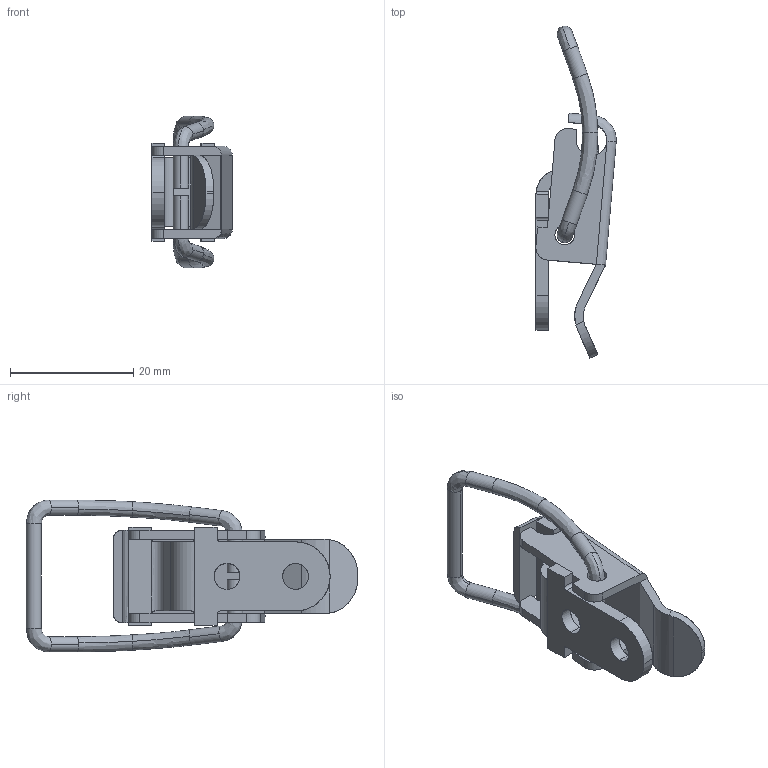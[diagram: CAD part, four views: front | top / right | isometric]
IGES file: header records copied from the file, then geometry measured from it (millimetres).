
Start section: SolidWorks IGES FILE using analytic representation for surfaces
Global section: file name: C:\WINNT\Profiles\cbrechard\Bureau\GE 11\GE 11.IGS; native system: SolidWorks 2001Plus by SolidWorks Corporation; preprocessor: Version 5.3; author: CBRECHARD; date: 050124.103619; units: millimetre
Bounding box: 13.01 x 53.76 x 24.62 mm (x, y, z)
Surface area: 4027.5 mm2 (no closed solid volume)
Topology: 0 solids, 0 shells, 177 faces, 1415 edges, 1356 vertices
Faces by surface type: revolution 108, bspline 69
